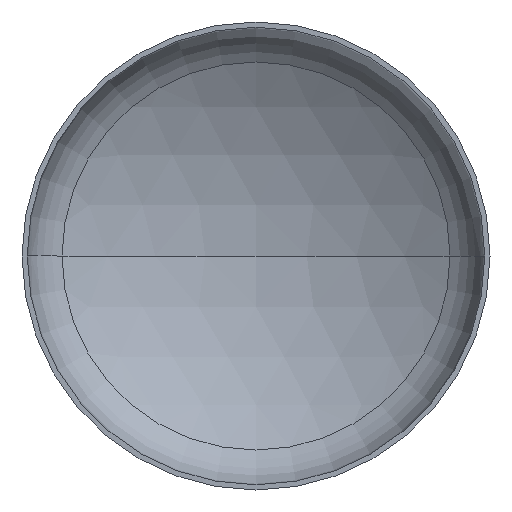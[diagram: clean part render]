
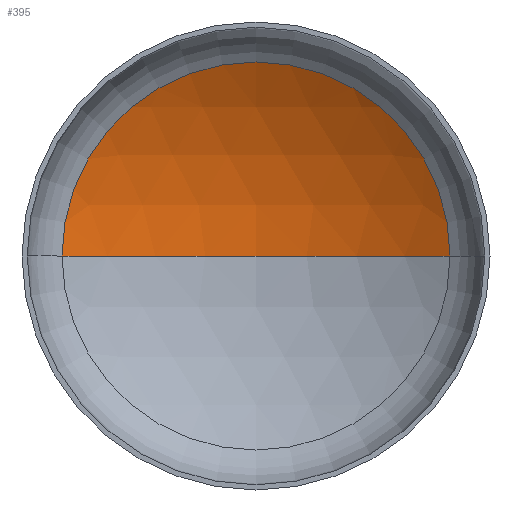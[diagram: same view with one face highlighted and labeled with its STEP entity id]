
A CAD part, front view. The second image highlights one B-rep face of the part: STEP entity #395.
In plain terms, the highlighted spherical face has radius 6000 mm.
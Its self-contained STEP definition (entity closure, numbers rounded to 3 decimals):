
#13 = VERTEX_POINT ( 'NONE', #197 ) ;
#33 = VERTEX_POINT ( 'NONE', #150 ) ;
#37 = EDGE_LOOP ( 'NONE', ( #265, #86, #78 ) ) ;
#46 = CIRCLE ( 'NONE', #77, 3109.598 ) ;
#53 = CARTESIAN_POINT ( 'NONE',  ( 0., 1956.462, 0. ) ) ;
#60 = SPHERICAL_SURFACE ( 'NONE', #174, 6000. ) ;
#61 = VERTEX_POINT ( 'NONE', #53 ) ;
#72 = CARTESIAN_POINT ( 'NONE',  ( 0., -4043.538, 0. ) ) ;
#73 = AXIS2_PLACEMENT_3D ( 'NONE', #72, #229, #388 ) ;
#75 = AXIS2_PLACEMENT_3D ( 'NONE', #315, #230, #391 ) ;
#77 = AXIS2_PLACEMENT_3D ( 'NONE', #360, #383, #224 ) ;
#78 = ORIENTED_EDGE ( 'NONE', *, *, #130, .T. ) ;
#86 = ORIENTED_EDGE ( 'NONE', *, *, #131, .T. ) ;
#130 = EDGE_CURVE ( 'NONE', #33, #13, #46, .T. ) ;
#131 = EDGE_CURVE ( 'NONE', #61, #33, #244, .T. ) ;
#139 = EDGE_CURVE ( 'NONE', #61, #13, #355, .T. ) ;
#150 = CARTESIAN_POINT ( 'NONE',  ( 3109.598, 1087.778, 0. ) ) ;
#174 = AXIS2_PLACEMENT_3D ( 'NONE', #211, #253, #248 ) ;
#195 = FACE_OUTER_BOUND ( 'NONE', #37, .T. ) ;
#197 = CARTESIAN_POINT ( 'NONE',  ( -3109.598, 1087.778, 0. ) ) ;
#211 = CARTESIAN_POINT ( 'NONE',  ( 0., -4043.538, 0. ) ) ;
#224 = DIRECTION ( 'NONE',  ( 1., 0., 0. ) ) ;
#229 = DIRECTION ( 'NONE',  ( 0., 0., 1. ) ) ;
#230 = DIRECTION ( 'NONE',  ( 0., 0., -1. ) ) ;
#244 = CIRCLE ( 'NONE', #75, 6000. ) ;
#248 = DIRECTION ( 'NONE',  ( -1., 0., 0. ) ) ;
#253 = DIRECTION ( 'NONE',  ( 0., 0., -1. ) ) ;
#265 = ORIENTED_EDGE ( 'NONE', *, *, #139, .F. ) ;
#315 = CARTESIAN_POINT ( 'NONE',  ( 0., -4043.538, 0. ) ) ;
#355 = CIRCLE ( 'NONE', #73, 6000. ) ;
#360 = CARTESIAN_POINT ( 'NONE',  ( 0., 1087.778, 0. ) ) ;
#383 = DIRECTION ( 'NONE',  ( 0., -1., 0. ) ) ;
#388 = DIRECTION ( 'NONE',  ( 1., 0., 0. ) ) ;
#391 = DIRECTION ( 'NONE',  ( -1., 0., 0. ) ) ;
#395 = ADVANCED_FACE ( 'NONE', ( #195 ), #60, .F. ) ;
